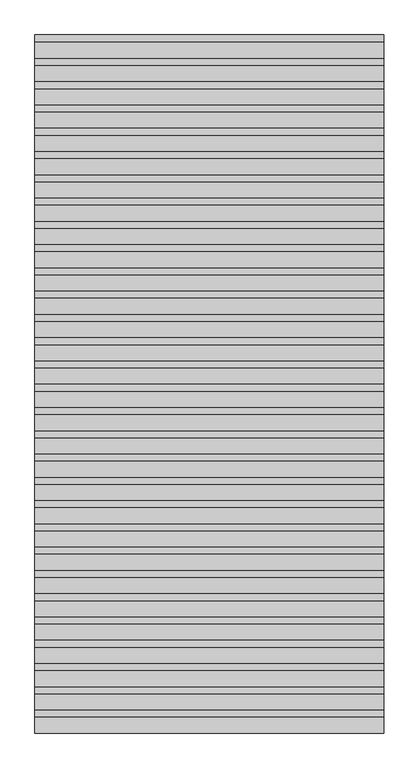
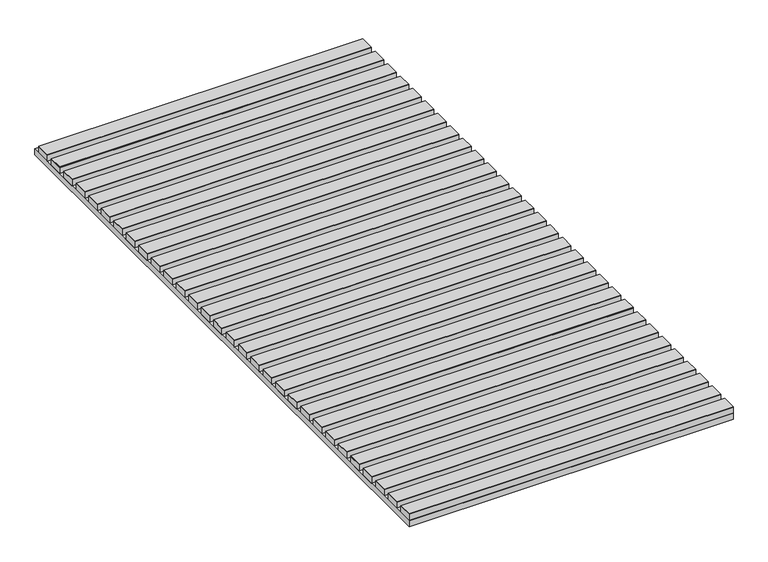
"""IFC4 building model written with IfcOpenShell, lengths in millimetres: proxy geometry, MODELO3D_PLAFONES_COMP 2.3dm."""

from ifc_helpers import new_model, si_unit, frame, origin, origin_with_axes, place, context, project, spatial, polyline, outline, extrude, source, transform, mapped, element, save


def generic_models_d855582b(model_context):
    return source(origin(), model_context, "Body", "SweptSolid", [
        extrude(outline(polyline([(-2997.027762, 336.632562), (-2997.027762, 1536.632562), (-2397.027762, 1536.632562), (-2397.027762, 336.632562), (-2997.027762, 336.632562)])), origin_with_axes(), (0.0, 0.0, 1.0), 12.0),
        extrude(outline(polyline([(-2397.027762, 336.632562), (-2997.027762, 336.632562), (-2997.027762, 363.632562), (-2397.027762, 363.632562), (-2397.027762, 336.632562)])), frame((0.0, 0.0, 12.0), z_axis=(0.0, 0.0, 1.0), x_axis=(1.0, 0.0, 0.0)), (0.0, 0.0, 1.0), 12.0),
        extrude(outline(polyline([(-2397.027762, 376.632562), (-2997.027762, 376.632562), (-2997.027762, 403.632562), (-2397.027762, 403.632562), (-2397.027762, 376.632562)])), frame((0.0, 0.0, 12.0), z_axis=(0.0, 0.0, 1.0), x_axis=(1.0, 0.0, 0.0)), (0.0, 0.0, 1.0), 12.0),
        extrude(outline(polyline([(-2397.027762, 416.632562), (-2997.027762, 416.632562), (-2997.027762, 443.632562), (-2397.027762, 443.632562), (-2397.027762, 416.632562)])), frame((0.0, 0.0, 12.0), z_axis=(0.0, 0.0, 1.0), x_axis=(1.0, 0.0, 0.0)), (0.0, 0.0, 1.0), 12.0),
        extrude(outline(polyline([(-2397.027762, 456.632562), (-2997.027762, 456.632562), (-2997.027762, 483.632562), (-2397.027762, 483.632562), (-2397.027762, 456.632562)])), frame((0.0, 0.0, 12.0), z_axis=(0.0, 0.0, 1.0), x_axis=(1.0, 0.0, 0.0)), (0.0, 0.0, 1.0), 12.0),
        extrude(outline(polyline([(-2397.027762, 496.632562), (-2997.027762, 496.632562), (-2997.027762, 523.632562), (-2397.027762, 523.632562), (-2397.027762, 496.632562)])), frame((0.0, 0.0, 12.0), z_axis=(0.0, 0.0, 1.0), x_axis=(1.0, 0.0, 0.0)), (0.0, 0.0, 1.0), 12.0),
        extrude(outline(polyline([(-2397.027762, 536.632562), (-2997.027762, 536.632562), (-2997.027762, 563.632562), (-2397.027762, 563.632562), (-2397.027762, 536.632562)])), frame((0.0, 0.0, 12.0), z_axis=(0.0, 0.0, 1.0), x_axis=(1.0, 0.0, 0.0)), (0.0, 0.0, 1.0), 12.0),
        extrude(outline(polyline([(-2397.027762, 576.632562), (-2997.027762, 576.632562), (-2997.027762, 603.632562), (-2397.027762, 603.632562), (-2397.027762, 576.632562)])), frame((0.0, 0.0, 12.0), z_axis=(0.0, 0.0, 1.0), x_axis=(1.0, 0.0, 0.0)), (0.0, 0.0, 1.0), 12.0),
        extrude(outline(polyline([(-2397.027762, 616.632562), (-2997.027762, 616.632562), (-2997.027762, 643.632562), (-2397.027762, 643.632562), (-2397.027762, 616.632562)])), frame((0.0, 0.0, 12.0), z_axis=(0.0, 0.0, 1.0), x_axis=(1.0, 0.0, 0.0)), (0.0, 0.0, 1.0), 12.0),
        extrude(outline(polyline([(-2397.027762, 656.632562), (-2997.027762, 656.632562), (-2997.027762, 683.632562), (-2397.027762, 683.632562), (-2397.027762, 656.632562)])), frame((0.0, 0.0, 12.0), z_axis=(0.0, 0.0, 1.0), x_axis=(1.0, 0.0, 0.0)), (0.0, 0.0, 1.0), 12.0),
        extrude(outline(polyline([(-2397.027762, 696.632562), (-2997.027762, 696.632562), (-2997.027762, 723.632562), (-2397.027762, 723.632562), (-2397.027762, 696.632562)])), frame((0.0, 0.0, 12.0), z_axis=(0.0, 0.0, 1.0), x_axis=(1.0, 0.0, 0.0)), (0.0, 0.0, 1.0), 12.0),
        extrude(outline(polyline([(-2397.027762, 736.632562), (-2997.027762, 736.632562), (-2997.027762, 763.632562), (-2397.027762, 763.632562), (-2397.027762, 736.632562)])), frame((0.0, 0.0, 12.0), z_axis=(0.0, 0.0, 1.0), x_axis=(1.0, 0.0, 0.0)), (0.0, 0.0, 1.0), 12.0),
        extrude(outline(polyline([(-2397.027762, 776.632562), (-2997.027762, 776.632562), (-2997.027762, 803.632562), (-2397.027762, 803.632562), (-2397.027762, 776.632562)])), frame((0.0, 0.0, 12.0), z_axis=(0.0, 0.0, 1.0), x_axis=(1.0, 0.0, 0.0)), (0.0, 0.0, 1.0), 12.0),
        extrude(outline(polyline([(-2397.027762, 816.632562), (-2997.027762, 816.632562), (-2997.027762, 843.632562), (-2397.027762, 843.632562), (-2397.027762, 816.632562)])), frame((0.0, 0.0, 12.0), z_axis=(0.0, 0.0, 1.0), x_axis=(1.0, 0.0, 0.0)), (0.0, 0.0, 1.0), 12.0),
        extrude(outline(polyline([(-2397.027762, 856.632562), (-2997.027762, 856.632562), (-2997.027762, 883.632562), (-2397.027762, 883.632562), (-2397.027762, 856.632562)])), frame((0.0, 0.0, 12.0), z_axis=(0.0, 0.0, 1.0), x_axis=(1.0, 0.0, 0.0)), (0.0, 0.0, 1.0), 12.0),
        extrude(outline(polyline([(-2397.027762, 896.632562), (-2997.027762, 896.632562), (-2997.027762, 923.632562), (-2397.027762, 923.632562), (-2397.027762, 896.632562)])), frame((0.0, 0.0, 12.0), z_axis=(0.0, 0.0, 1.0), x_axis=(1.0, 0.0, 0.0)), (0.0, 0.0, 1.0), 12.0),
        extrude(outline(polyline([(-2397.027762, 936.632562), (-2997.027762, 936.632562), (-2997.027762, 963.632562), (-2397.027762, 963.632562), (-2397.027762, 936.632562)])), frame((0.0, 0.0, 12.0), z_axis=(0.0, 0.0, 1.0), x_axis=(1.0, 0.0, 0.0)), (0.0, 0.0, 1.0), 12.0),
        extrude(outline(polyline([(-2397.027762, 976.632562), (-2997.027762, 976.632562), (-2997.027762, 1003.632562), (-2397.027762, 1003.632562), (-2397.027762, 976.632562)])), frame((0.0, 0.0, 12.0), z_axis=(0.0, 0.0, 1.0), x_axis=(1.0, 0.0, 0.0)), (0.0, 0.0, 1.0), 12.0),
        extrude(outline(polyline([(-2397.027762, 1016.632562), (-2997.027762, 1016.632562), (-2997.027762, 1043.632562), (-2397.027762, 1043.632562), (-2397.027762, 1016.632562)])), frame((0.0, 0.0, 12.0), z_axis=(0.0, 0.0, 1.0), x_axis=(1.0, 0.0, 0.0)), (0.0, 0.0, 1.0), 12.0),
        extrude(outline(polyline([(-2397.027762, 1056.632562), (-2997.027762, 1056.632562), (-2997.027762, 1083.632562), (-2397.027762, 1083.632562), (-2397.027762, 1056.632562)])), frame((0.0, 0.0, 12.0), z_axis=(0.0, 0.0, 1.0), x_axis=(1.0, 0.0, 0.0)), (0.0, 0.0, 1.0), 12.0),
        extrude(outline(polyline([(-2397.027762, 1096.632562), (-2997.027762, 1096.632562), (-2997.027762, 1123.632562), (-2397.027762, 1123.632562), (-2397.027762, 1096.632562)])), frame((0.0, 0.0, 12.0), z_axis=(0.0, 0.0, 1.0), x_axis=(1.0, 0.0, 0.0)), (0.0, 0.0, 1.0), 12.0),
        extrude(outline(polyline([(-2397.027762, 1136.632562), (-2997.027762, 1136.632562), (-2997.027762, 1163.632562), (-2397.027762, 1163.632562), (-2397.027762, 1136.632562)])), frame((0.0, 0.0, 12.0), z_axis=(0.0, 0.0, 1.0), x_axis=(1.0, 0.0, 0.0)), (0.0, 0.0, 1.0), 12.0),
        extrude(outline(polyline([(-2397.027762, 1176.632562), (-2997.027762, 1176.632562), (-2997.027762, 1203.632562), (-2397.027762, 1203.632562), (-2397.027762, 1176.632562)])), frame((0.0, 0.0, 12.0), z_axis=(0.0, 0.0, 1.0), x_axis=(1.0, 0.0, 0.0)), (0.0, 0.0, 1.0), 12.0),
        extrude(outline(polyline([(-2397.027762, 1216.632562), (-2997.027762, 1216.632562), (-2997.027762, 1243.632562), (-2397.027762, 1243.632562), (-2397.027762, 1216.632562)])), frame((0.0, 0.0, 12.0), z_axis=(0.0, 0.0, 1.0), x_axis=(1.0, 0.0, 0.0)), (0.0, 0.0, 1.0), 12.0),
        extrude(outline(polyline([(-2397.027762, 1256.632562), (-2997.027762, 1256.632562), (-2997.027762, 1283.632562), (-2397.027762, 1283.632562), (-2397.027762, 1256.632562)])), frame((0.0, 0.0, 12.0), z_axis=(0.0, 0.0, 1.0), x_axis=(1.0, 0.0, 0.0)), (0.0, 0.0, 1.0), 12.0),
        extrude(outline(polyline([(-2397.027762, 1296.632562), (-2997.027762, 1296.632562), (-2997.027762, 1323.632562), (-2397.027762, 1323.632562), (-2397.027762, 1296.632562)])), frame((0.0, 0.0, 12.0), z_axis=(0.0, 0.0, 1.0), x_axis=(1.0, 0.0, 0.0)), (0.0, 0.0, 1.0), 12.0),
        extrude(outline(polyline([(-2397.027762, 1336.632562), (-2997.027762, 1336.632562), (-2997.027762, 1363.632562), (-2397.027762, 1363.632562), (-2397.027762, 1336.632562)])), frame((0.0, 0.0, 12.0), z_axis=(0.0, 0.0, 1.0), x_axis=(1.0, 0.0, 0.0)), (0.0, 0.0, 1.0), 12.0),
        extrude(outline(polyline([(-2397.027762, 1376.632562), (-2997.027762, 1376.632562), (-2997.027762, 1403.632562), (-2397.027762, 1403.632562), (-2397.027762, 1376.632562)])), frame((0.0, 0.0, 12.0), z_axis=(0.0, 0.0, 1.0), x_axis=(1.0, 0.0, 0.0)), (0.0, 0.0, 1.0), 12.0),
        extrude(outline(polyline([(-2397.027762, 1416.632562), (-2997.027762, 1416.632562), (-2997.027762, 1443.632562), (-2397.027762, 1443.632562), (-2397.027762, 1416.632562)])), frame((0.0, 0.0, 12.0), z_axis=(0.0, 0.0, 1.0), x_axis=(1.0, 0.0, 0.0)), (0.0, 0.0, 1.0), 12.0),
        extrude(outline(polyline([(-2397.027762, 1456.632562), (-2997.027762, 1456.632562), (-2997.027762, 1483.632562), (-2397.027762, 1483.632562), (-2397.027762, 1456.632562)])), frame((0.0, 0.0, 12.0), z_axis=(0.0, 0.0, 1.0), x_axis=(1.0, 0.0, 0.0)), (0.0, 0.0, 1.0), 12.0),
        extrude(outline(polyline([(-2397.027762, 1496.632562), (-2997.027762, 1496.632562), (-2997.027762, 1523.632562), (-2397.027762, 1523.632562), (-2397.027762, 1496.632562)])), frame((0.0, 0.0, 12.0), z_axis=(0.0, 0.0, 1.0), x_axis=(1.0, 0.0, 0.0)), (0.0, 0.0, 1.0), 12.0),
        extrude(outline(polyline([(-2397.027762, 336.632562), (-2997.027762, 336.632562), (-2997.027762, 363.632562), (-2397.027762, 363.632562), (-2397.027762, 336.632562)])), frame((0.0, 0.0, 24.0), z_axis=(0.0, 0.0, 1.0), x_axis=(1.0, 0.0, 0.0)), (0.0, 0.0, 1.0), 1.0),
        extrude(outline(polyline([(-2397.027762, 376.632562), (-2997.027762, 376.632562), (-2997.027762, 403.632562), (-2397.027762, 403.632562), (-2397.027762, 376.632562)])), frame((0.0, 0.0, 24.0), z_axis=(0.0, 0.0, 1.0), x_axis=(1.0, 0.0, 0.0)), (0.0, 0.0, 1.0), 1.0),
        extrude(outline(polyline([(-2397.027762, 416.632562), (-2997.027762, 416.632562), (-2997.027762, 443.632562), (-2397.027762, 443.632562), (-2397.027762, 416.632562)])), frame((0.0, 0.0, 24.0), z_axis=(0.0, 0.0, 1.0), x_axis=(1.0, 0.0, 0.0)), (0.0, 0.0, 1.0), 1.0),
        extrude(outline(polyline([(-2397.027762, 456.632562), (-2997.027762, 456.632562), (-2997.027762, 483.632562), (-2397.027762, 483.632562), (-2397.027762, 456.632562)])), frame((0.0, 0.0, 24.0), z_axis=(0.0, 0.0, 1.0), x_axis=(1.0, 0.0, 0.0)), (0.0, 0.0, 1.0), 1.0),
        extrude(outline(polyline([(-2397.027762, 496.632562), (-2997.027762, 496.632562), (-2997.027762, 523.632562), (-2397.027762, 523.632562), (-2397.027762, 496.632562)])), frame((0.0, 0.0, 24.0), z_axis=(0.0, 0.0, 1.0), x_axis=(1.0, 0.0, 0.0)), (0.0, 0.0, 1.0), 1.0),
        extrude(outline(polyline([(-2397.027762, 536.632562), (-2997.027762, 536.632562), (-2997.027762, 563.632562), (-2397.027762, 563.632562), (-2397.027762, 536.632562)])), frame((0.0, 0.0, 24.0), z_axis=(0.0, 0.0, 1.0), x_axis=(1.0, 0.0, 0.0)), (0.0, 0.0, 1.0), 1.0),
        extrude(outline(polyline([(-2397.027762, 576.632562), (-2997.027762, 576.632562), (-2997.027762, 603.632562), (-2397.027762, 603.632562), (-2397.027762, 576.632562)])), frame((0.0, 0.0, 24.0), z_axis=(0.0, 0.0, 1.0), x_axis=(1.0, 0.0, 0.0)), (0.0, 0.0, 1.0), 1.0),
        extrude(outline(polyline([(-2397.027762, 616.632562), (-2997.027762, 616.632562), (-2997.027762, 643.632562), (-2397.027762, 643.632562), (-2397.027762, 616.632562)])), frame((0.0, 0.0, 24.0), z_axis=(0.0, 0.0, 1.0), x_axis=(1.0, 0.0, 0.0)), (0.0, 0.0, 1.0), 1.0),
        extrude(outline(polyline([(-2397.027762, 656.632562), (-2997.027762, 656.632562), (-2997.027762, 683.632562), (-2397.027762, 683.632562), (-2397.027762, 656.632562)])), frame((0.0, 0.0, 24.0), z_axis=(0.0, 0.0, 1.0), x_axis=(1.0, 0.0, 0.0)), (0.0, 0.0, 1.0), 1.0),
        extrude(outline(polyline([(-2397.027762, 696.632562), (-2997.027762, 696.632562), (-2997.027762, 723.632562), (-2397.027762, 723.632562), (-2397.027762, 696.632562)])), frame((0.0, 0.0, 24.0), z_axis=(0.0, 0.0, 1.0), x_axis=(1.0, 0.0, 0.0)), (0.0, 0.0, 1.0), 1.0),
        extrude(outline(polyline([(-2397.027762, 736.632562), (-2997.027762, 736.632562), (-2997.027762, 763.632562), (-2397.027762, 763.632562), (-2397.027762, 736.632562)])), frame((0.0, 0.0, 24.0), z_axis=(0.0, 0.0, 1.0), x_axis=(1.0, 0.0, 0.0)), (0.0, 0.0, 1.0), 1.0),
        extrude(outline(polyline([(-2397.027762, 776.632562), (-2997.027762, 776.632562), (-2997.027762, 803.632562), (-2397.027762, 803.632562), (-2397.027762, 776.632562)])), frame((0.0, 0.0, 24.0), z_axis=(0.0, 0.0, 1.0), x_axis=(1.0, 0.0, 0.0)), (0.0, 0.0, 1.0), 1.0),
        extrude(outline(polyline([(-2397.027762, 816.632562), (-2997.027762, 816.632562), (-2997.027762, 843.632562), (-2397.027762, 843.632562), (-2397.027762, 816.632562)])), frame((0.0, 0.0, 24.0), z_axis=(0.0, 0.0, 1.0), x_axis=(1.0, 0.0, 0.0)), (0.0, 0.0, 1.0), 1.0),
        extrude(outline(polyline([(-2397.027762, 856.632562), (-2997.027762, 856.632562), (-2997.027762, 883.632562), (-2397.027762, 883.632562), (-2397.027762, 856.632562)])), frame((0.0, 0.0, 24.0), z_axis=(0.0, 0.0, 1.0), x_axis=(1.0, 0.0, 0.0)), (0.0, 0.0, 1.0), 1.0),
        extrude(outline(polyline([(-2397.027762, 896.632562), (-2997.027762, 896.632562), (-2997.027762, 923.632562), (-2397.027762, 923.632562), (-2397.027762, 896.632562)])), frame((0.0, 0.0, 24.0), z_axis=(0.0, 0.0, 1.0), x_axis=(1.0, 0.0, 0.0)), (0.0, 0.0, 1.0), 1.0),
        extrude(outline(polyline([(-2397.027762, 936.632562), (-2997.027762, 936.632562), (-2997.027762, 963.632562), (-2397.027762, 963.632562), (-2397.027762, 936.632562)])), frame((0.0, 0.0, 24.0), z_axis=(0.0, 0.0, 1.0), x_axis=(1.0, 0.0, 0.0)), (0.0, 0.0, 1.0), 1.0),
        extrude(outline(polyline([(-2397.027762, 976.632562), (-2997.027762, 976.632562), (-2997.027762, 1003.632562), (-2397.027762, 1003.632562), (-2397.027762, 976.632562)])), frame((0.0, 0.0, 24.0), z_axis=(0.0, 0.0, 1.0), x_axis=(1.0, 0.0, 0.0)), (0.0, 0.0, 1.0), 1.0),
        extrude(outline(polyline([(-2397.027762, 1016.632562), (-2997.027762, 1016.632562), (-2997.027762, 1043.632562), (-2397.027762, 1043.632562), (-2397.027762, 1016.632562)])), frame((0.0, 0.0, 24.0), z_axis=(0.0, 0.0, 1.0), x_axis=(1.0, 0.0, 0.0)), (0.0, 0.0, 1.0), 1.0),
        extrude(outline(polyline([(-2397.027762, 1056.632562), (-2997.027762, 1056.632562), (-2997.027762, 1083.632562), (-2397.027762, 1083.632562), (-2397.027762, 1056.632562)])), frame((0.0, 0.0, 24.0), z_axis=(0.0, 0.0, 1.0), x_axis=(1.0, 0.0, 0.0)), (0.0, 0.0, 1.0), 1.0),
        extrude(outline(polyline([(-2397.027762, 1096.632562), (-2997.027762, 1096.632562), (-2997.027762, 1123.632562), (-2397.027762, 1123.632562), (-2397.027762, 1096.632562)])), frame((0.0, 0.0, 24.0), z_axis=(0.0, 0.0, 1.0), x_axis=(1.0, 0.0, 0.0)), (0.0, 0.0, 1.0), 1.0),
        extrude(outline(polyline([(-2397.027762, 1136.632562), (-2997.027762, 1136.632562), (-2997.027762, 1163.632562), (-2397.027762, 1163.632562), (-2397.027762, 1136.632562)])), frame((0.0, 0.0, 24.0), z_axis=(0.0, 0.0, 1.0), x_axis=(1.0, 0.0, 0.0)), (0.0, 0.0, 1.0), 1.0),
        extrude(outline(polyline([(-2397.027762, 1176.632562), (-2997.027762, 1176.632562), (-2997.027762, 1203.632562), (-2397.027762, 1203.632562), (-2397.027762, 1176.632562)])), frame((0.0, 0.0, 24.0), z_axis=(0.0, 0.0, 1.0), x_axis=(1.0, 0.0, 0.0)), (0.0, 0.0, 1.0), 1.0),
        extrude(outline(polyline([(-2397.027762, 1216.632562), (-2997.027762, 1216.632562), (-2997.027762, 1243.632562), (-2397.027762, 1243.632562), (-2397.027762, 1216.632562)])), frame((0.0, 0.0, 24.0), z_axis=(0.0, 0.0, 1.0), x_axis=(1.0, 0.0, 0.0)), (0.0, 0.0, 1.0), 1.0),
        extrude(outline(polyline([(-2397.027762, 1256.632562), (-2997.027762, 1256.632562), (-2997.027762, 1283.632562), (-2397.027762, 1283.632562), (-2397.027762, 1256.632562)])), frame((0.0, 0.0, 24.0), z_axis=(0.0, 0.0, 1.0), x_axis=(1.0, 0.0, 0.0)), (0.0, 0.0, 1.0), 1.0),
        extrude(outline(polyline([(-2397.027762, 1296.632562), (-2997.027762, 1296.632562), (-2997.027762, 1323.632562), (-2397.027762, 1323.632562), (-2397.027762, 1296.632562)])), frame((0.0, 0.0, 24.0), z_axis=(0.0, 0.0, 1.0), x_axis=(1.0, 0.0, 0.0)), (0.0, 0.0, 1.0), 1.0),
        extrude(outline(polyline([(-2397.027762, 1336.632562), (-2997.027762, 1336.632562), (-2997.027762, 1363.632562), (-2397.027762, 1363.632562), (-2397.027762, 1336.632562)])), frame((0.0, 0.0, 24.0), z_axis=(0.0, 0.0, 1.0), x_axis=(1.0, 0.0, 0.0)), (0.0, 0.0, 1.0), 1.0),
        extrude(outline(polyline([(-2397.027762, 1376.632562), (-2997.027762, 1376.632562), (-2997.027762, 1403.632562), (-2397.027762, 1403.632562), (-2397.027762, 1376.632562)])), frame((0.0, 0.0, 24.0), z_axis=(0.0, 0.0, 1.0), x_axis=(1.0, 0.0, 0.0)), (0.0, 0.0, 1.0), 1.0),
        extrude(outline(polyline([(-2397.027762, 1416.632562), (-2997.027762, 1416.632562), (-2997.027762, 1443.632562), (-2397.027762, 1443.632562), (-2397.027762, 1416.632562)])), frame((0.0, 0.0, 24.0), z_axis=(0.0, 0.0, 1.0), x_axis=(1.0, 0.0, 0.0)), (0.0, 0.0, 1.0), 1.0),
        extrude(outline(polyline([(-2397.027762, 1456.632562), (-2997.027762, 1456.632562), (-2997.027762, 1483.632562), (-2397.027762, 1483.632562), (-2397.027762, 1456.632562)])), frame((0.0, 0.0, 24.0), z_axis=(0.0, 0.0, 1.0), x_axis=(1.0, 0.0, 0.0)), (0.0, 0.0, 1.0), 1.0),
        extrude(outline(polyline([(-2397.027762, 1496.632562), (-2997.027762, 1496.632562), (-2997.027762, 1523.632562), (-2397.027762, 1523.632562), (-2397.027762, 1496.632562)])), frame((0.0, 0.0, 24.0), z_axis=(0.0, 0.0, 1.0), x_axis=(1.0, 0.0, 0.0)), (0.0, 0.0, 1.0), 1.0),
    ])


if __name__ == "__main__":
    model = new_model("IFC4")
    model_context = context("Model", 3, world=origin())
    ifc_project = project(units=[si_unit("LENGTHUNIT", "METRE", prefix="MILLI")], contexts=[model_context])
    site = spatial("IfcSite", under=ifc_project)
    building = spatial("IfcBuilding", under=site)
    placement = place(None, origin())
    generic_models_shape = generic_models_d855582b(model_context)
    element("IfcBuildingElementProxy", 1, Name="MODELO3D_PLAFONES_COMP 2.3dm", ObjectType="MODELO3D_PLAFONES_COMP 2.3dm", at=placement, inside=building, context=model_context, shape_type="MappedRepresentation", body=[
        mapped(generic_models_shape, transform((0.0, 0.0, 0.0), x_axis=(1.0, 0.0, 0.0), y_axis=(0.0, 1.0, 0.0), z_axis=(0.0, 0.0, 1.0))),
    ])
    save(model, "model.ifc")
